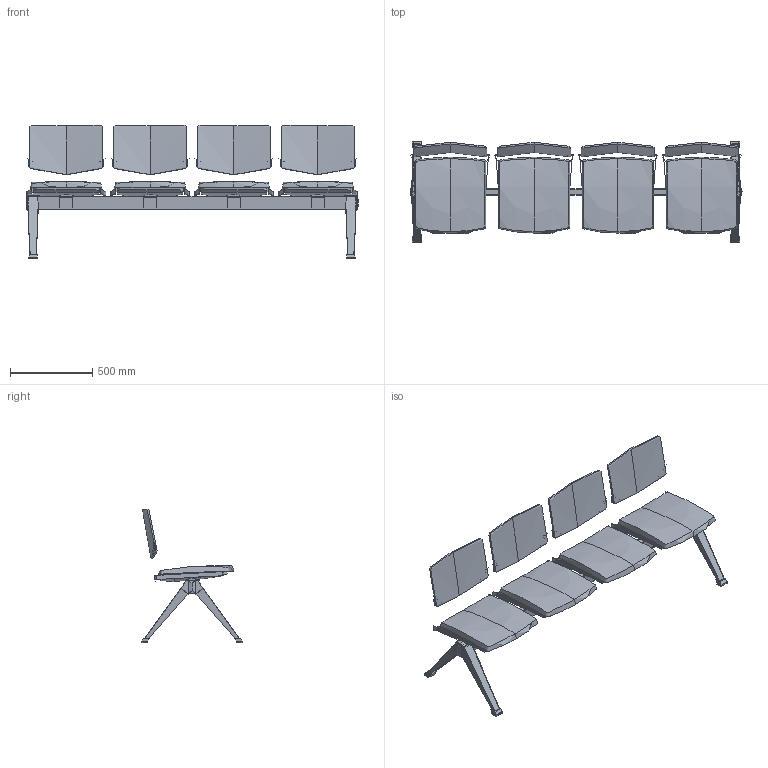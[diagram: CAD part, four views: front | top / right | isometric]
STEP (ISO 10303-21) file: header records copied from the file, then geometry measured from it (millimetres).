
FILE_DESCRIPTION(/* description */ (''),/* implementation_level */ '2;1');
FILE_NAME(/* name */ 'Seance 099-V4',/* time_stamp */ '2020-03-26T14:38:00+01:00',/* author */ (''),/* organization */ (''),/* preprocessor_version */ 'ST-DEVELOPER v16.5',/* originating_system */ '',/* authorisation */ '');
FILE_SCHEMA (('AUTOMOTIVE_DESIGN'));
Length unit declared in the file: millimetre
Products named in the file (1): Document
Bounding box: 2020 x 620 x 812.99 mm (x, y, z)
Volume: 38807096.2 mm3; surface area: 5372594.1 mm2
Topology: 64 solids, 73 shells, 644 faces, 1474 edges, 946 vertices
Faces by surface type: bspline 340, plane 304
Entity records: 23656 total; most frequent: CARTESIAN_POINT 13973, ORIENTED_EDGE 2792, EDGE_CURVE 1444, B_SPLINE_CURVE_WITH_KNOTS 1127, VERTEX_POINT 932, ADVANCED_FACE 644, FACE_OUTER_BOUND 644, EDGE_LOOP 644
